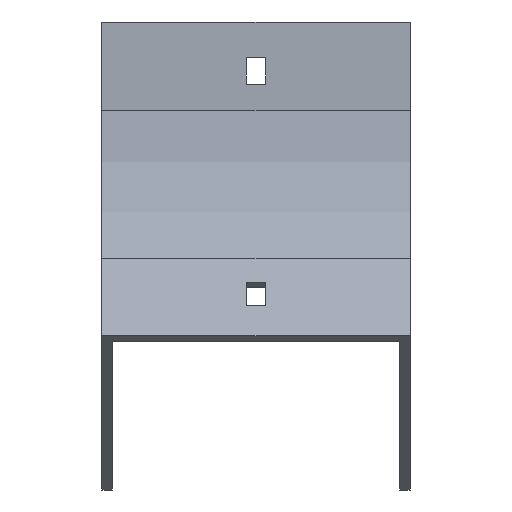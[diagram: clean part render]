
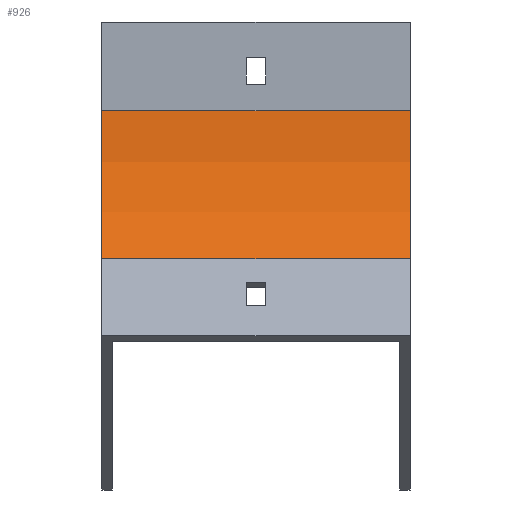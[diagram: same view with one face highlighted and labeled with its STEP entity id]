
A CAD part, front view. The second image highlights one B-rep face of the part: STEP entity #926.
In plain terms, the highlighted cylindrical face has radius 100 mm (diameter 200 mm), a partial arc.
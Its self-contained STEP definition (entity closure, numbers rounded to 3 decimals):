
#22 = LINE ( 'NONE', #1513, #1561 ) ;
#42 = DIRECTION ( 'NONE',  ( -1., 0., 0. ) ) ;
#111 = VERTEX_POINT ( 'NONE', #1677 ) ;
#119 = EDGE_CURVE ( 'NONE', #1163, #1919, #616, .T. ) ;
#208 = ORIENTED_EDGE ( 'NONE', *, *, #119, .T. ) ;
#218 = AXIS2_PLACEMENT_3D ( 'NONE', #457, #1609, #1631 ) ;
#260 = CARTESIAN_POINT ( 'NONE',  ( -52., 0., -30. ) ) ;
#297 = EDGE_CURVE ( 'NONE', #1163, #979, #918, .T. ) ;
#331 = DIRECTION ( 'NONE',  ( -1., 0., 0. ) ) ;
#457 = CARTESIAN_POINT ( 'NONE',  ( 52., -100., -30. ) ) ;
#492 = CARTESIAN_POINT ( 'NONE',  ( -52., -100., -30. ) ) ;
#503 = CIRCLE ( 'NONE', #1597, 100. ) ;
#601 = AXIS2_PLACEMENT_3D ( 'NONE', #1457, #1252, #1586 ) ;
#602 = FACE_OUTER_BOUND ( 'NONE', #1446, .T. ) ;
#615 = ORIENTED_EDGE ( 'NONE', *, *, #1816, .T. ) ;
#616 = LINE ( 'NONE', #1198, #1611 ) ;
#627 = ORIENTED_EDGE ( 'NONE', *, *, #1060, .F. ) ;
#657 = DIRECTION ( 'NONE',  ( 0., 0., 1. ) ) ;
#677 = ORIENTED_EDGE ( 'NONE', *, *, #297, .F. ) ;
#918 = CIRCLE ( 'NONE', #601, 100. ) ;
#926 = ADVANCED_FACE ( 'NONE', ( #602 ), #1783, .F. ) ;
#927 = CARTESIAN_POINT ( 'NONE',  ( 52., 0., -30. ) ) ;
#932 = DIRECTION ( 'NONE',  ( -1., 0., 0. ) ) ;
#979 = VERTEX_POINT ( 'NONE', #1026 ) ;
#1026 = CARTESIAN_POINT ( 'NONE',  ( 52., -13.397, -80. ) ) ;
#1060 = EDGE_CURVE ( 'NONE', #979, #111, #22, .T. ) ;
#1163 = VERTEX_POINT ( 'NONE', #927 ) ;
#1198 = CARTESIAN_POINT ( 'NONE',  ( 52., 0., -30. ) ) ;
#1252 = DIRECTION ( 'NONE',  ( -1., 0., 0. ) ) ;
#1446 = EDGE_LOOP ( 'NONE', ( #615, #627, #677, #208 ) ) ;
#1457 = CARTESIAN_POINT ( 'NONE',  ( 52., -100., -30. ) ) ;
#1513 = CARTESIAN_POINT ( 'NONE',  ( 52., -13.397, -80. ) ) ;
#1561 = VECTOR ( 'NONE', #42, 1000. ) ;
#1586 = DIRECTION ( 'NONE',  ( 0., 0., 1. ) ) ;
#1597 = AXIS2_PLACEMENT_3D ( 'NONE', #492, #932, #657 ) ;
#1609 = DIRECTION ( 'NONE',  ( -1., 0., 0. ) ) ;
#1611 = VECTOR ( 'NONE', #331, 1000. ) ;
#1631 = DIRECTION ( 'NONE',  ( 0., 0., 1. ) ) ;
#1677 = CARTESIAN_POINT ( 'NONE',  ( -52., -13.397, -80. ) ) ;
#1783 = CYLINDRICAL_SURFACE ( 'NONE', #218, 100. ) ;
#1816 = EDGE_CURVE ( 'NONE', #1919, #111, #503, .T. ) ;
#1919 = VERTEX_POINT ( 'NONE', #260 ) ;
